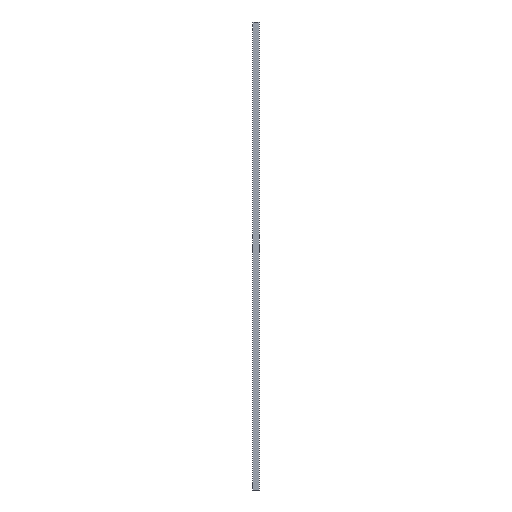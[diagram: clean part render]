
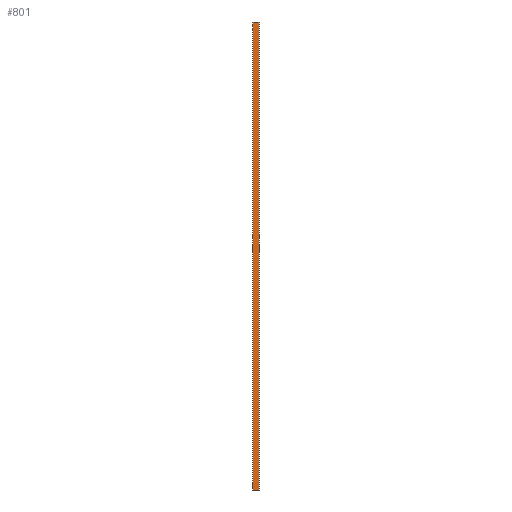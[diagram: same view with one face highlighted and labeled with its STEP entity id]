
A CAD part, left-side view. The second image highlights one B-rep face of the part: STEP entity #801.
In plain terms, the highlighted planar face has unit normal (-1, 0, 0).
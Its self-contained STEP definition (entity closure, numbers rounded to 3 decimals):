
#16 = CARTESIAN_POINT ( 'NONE',  ( -8., 12.5, 879. ) ) ;
#18 = CARTESIAN_POINT ( 'NONE',  ( -8., 0., 879. ) ) ;
#42 = LINE ( 'NONE', #258, #1243 ) ;
#44 = CARTESIAN_POINT ( 'NONE',  ( -8., 12.5, 879. ) ) ;
#73 = CARTESIAN_POINT ( 'NONE',  ( -8., 0., 879. ) ) ;
#103 = VERTEX_POINT ( 'NONE', #105 ) ;
#105 = CARTESIAN_POINT ( 'NONE',  ( -8., 3.2, 0. ) ) ;
#107 = LINE ( 'NONE', #294, #1223 ) ;
#117 = DIRECTION ( 'NONE',  ( 0., 1., 0. ) ) ;
#118 = AXIS2_PLACEMENT_3D ( 'NONE', #960, #955, #608 ) ;
#126 = LINE ( 'NONE', #1106, #1200 ) ;
#129 = DIRECTION ( 'NONE',  ( 0., 1., 0. ) ) ;
#143 = CARTESIAN_POINT ( 'NONE',  ( -8., 3.2, 879. ) ) ;
#165 = EDGE_CURVE ( 'NONE', #849, #686, #1241, .T. ) ;
#233 = LINE ( 'NONE', #670, #1057 ) ;
#237 = EDGE_CURVE ( 'NONE', #1348, #405, #42, .T. ) ;
#244 = ORIENTED_EDGE ( 'NONE', *, *, #876, .T. ) ;
#258 = CARTESIAN_POINT ( 'NONE',  ( -8., 0., 0. ) ) ;
#284 = EDGE_CURVE ( 'NONE', #571, #1056, #233, .T. ) ;
#294 = CARTESIAN_POINT ( 'NONE',  ( -8., 12.5, 879. ) ) ;
#330 = DIRECTION ( 'NONE',  ( 0., 1., 0. ) ) ;
#358 = VECTOR ( 'NONE', #709, 1000. ) ;
#373 = ORIENTED_EDGE ( 'NONE', *, *, #437, .T. ) ;
#405 = VERTEX_POINT ( 'NONE', #428 ) ;
#428 = CARTESIAN_POINT ( 'NONE',  ( -8., 12.5, 0. ) ) ;
#437 = EDGE_CURVE ( 'NONE', #686, #405, #107, .T. ) ;
#515 = CARTESIAN_POINT ( 'NONE',  ( -8., 9.3, 879. ) ) ;
#544 = EDGE_CURVE ( 'NONE', #103, #1348, #126, .T. ) ;
#571 = VERTEX_POINT ( 'NONE', #143 ) ;
#591 = ORIENTED_EDGE ( 'NONE', *, *, #1381, .T. ) ;
#608 = DIRECTION ( 'NONE',  ( 0., 0., 1. ) ) ;
#614 = CARTESIAN_POINT ( 'NONE',  ( -8., 0., 0. ) ) ;
#635 = VERTEX_POINT ( 'NONE', #1330 ) ;
#670 = CARTESIAN_POINT ( 'NONE',  ( -8., 0., 879. ) ) ;
#686 = VERTEX_POINT ( 'NONE', #44 ) ;
#709 = DIRECTION ( 'NONE',  ( 0., 0., -1. ) ) ;
#718 = LINE ( 'NONE', #73, #358 ) ;
#722 = DIRECTION ( 'NONE',  ( 0., -1., 0. ) ) ;
#733 = DIRECTION ( 'NONE',  ( 0., 0., -1. ) ) ;
#758 = VECTOR ( 'NONE', #810, 1000. ) ;
#762 = ORIENTED_EDGE ( 'NONE', *, *, #237, .F. ) ;
#801 = ADVANCED_FACE ( 'NONE', ( #931 ), #1279, .T. ) ;
#810 = DIRECTION ( 'NONE',  ( 0., 1., 0. ) ) ;
#817 = ORIENTED_EDGE ( 'NONE', *, *, #544, .F. ) ;
#844 = ORIENTED_EDGE ( 'NONE', *, *, #284, .F. ) ;
#849 = VERTEX_POINT ( 'NONE', #515 ) ;
#876 = EDGE_CURVE ( 'NONE', #103, #635, #945, .T. ) ;
#905 = VECTOR ( 'NONE', #722, 1000. ) ;
#931 = FACE_OUTER_BOUND ( 'NONE', #1353, .T. ) ;
#945 = LINE ( 'NONE', #614, #905 ) ;
#955 = DIRECTION ( 'NONE',  ( -1., 0., 0. ) ) ;
#959 = VECTOR ( 'NONE', #330, 1000. ) ;
#960 = CARTESIAN_POINT ( 'NONE',  ( -8., 0., 879. ) ) ;
#962 = CARTESIAN_POINT ( 'NONE',  ( -8., 9.3, 0. ) ) ;
#1056 = VERTEX_POINT ( 'NONE', #18 ) ;
#1057 = VECTOR ( 'NONE', #1113, 1000. ) ;
#1066 = ORIENTED_EDGE ( 'NONE', *, *, #1306, .F. ) ;
#1106 = CARTESIAN_POINT ( 'NONE',  ( -8., 0., 0. ) ) ;
#1113 = DIRECTION ( 'NONE',  ( 0., -1., 0. ) ) ;
#1124 = ORIENTED_EDGE ( 'NONE', *, *, #165, .T. ) ;
#1200 = VECTOR ( 'NONE', #117, 1000. ) ;
#1223 = VECTOR ( 'NONE', #733, 1000. ) ;
#1226 = LINE ( 'NONE', #1232, #959 ) ;
#1232 = CARTESIAN_POINT ( 'NONE',  ( -8., 0., 879. ) ) ;
#1241 = LINE ( 'NONE', #16, #758 ) ;
#1243 = VECTOR ( 'NONE', #129, 1000. ) ;
#1279 = PLANE ( 'NONE',  #118 ) ;
#1306 = EDGE_CURVE ( 'NONE', #1056, #635, #718, .T. ) ;
#1330 = CARTESIAN_POINT ( 'NONE',  ( -8., 0., 0. ) ) ;
#1348 = VERTEX_POINT ( 'NONE', #962 ) ;
#1353 = EDGE_LOOP ( 'NONE', ( #817, #244, #1066, #844, #591, #1124, #373, #762 ) ) ;
#1381 = EDGE_CURVE ( 'NONE', #571, #849, #1226, .T. ) ;
